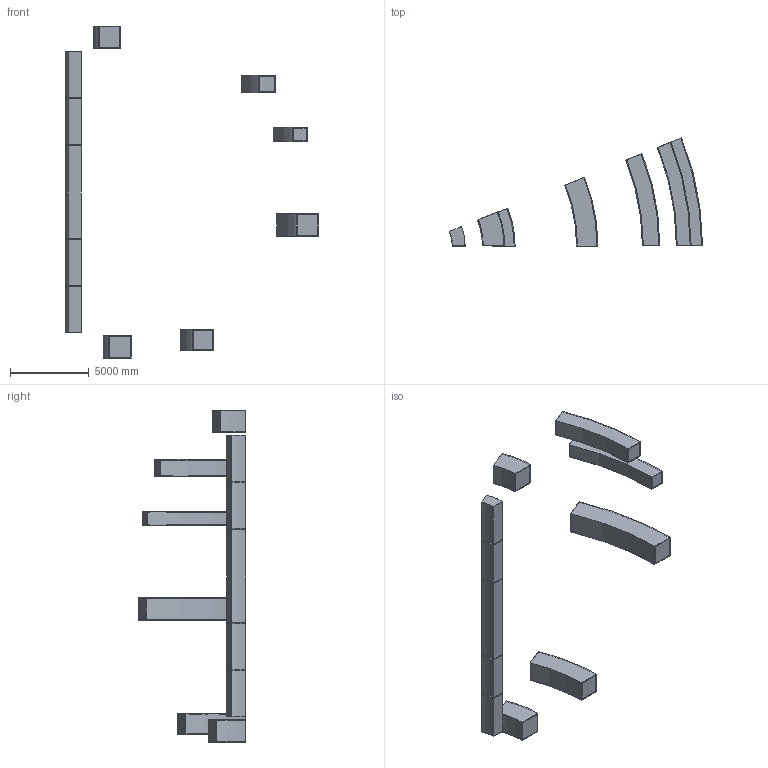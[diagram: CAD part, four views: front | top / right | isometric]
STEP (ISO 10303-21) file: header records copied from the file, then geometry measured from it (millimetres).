
FILE_DESCRIPTION(('FreeCAD Model'),'2;1');
FILE_NAME('Open CASCADE Shape Model','2026-10-11T08:18:57',('Bluemira'), ('Bluemira'),'Open CASCADE STEP processor 7.8','FreeCAD','Unknown');
FILE_SCHEMA(('AP242_MANAGED_MODEL_BASED_3D_ENGINEERING_MIM_LF. {1 0 10303 442 1 1 4 }'));
Length unit declared in the file: metre
Products named in the file (34): Unnamed; Winding_Pack; Ground_Insulation; Casing; Winding_Pack001; Ground_Insulation001; Casing001; Winding_Pack002; Ground_Insulation002; Casing002; Winding_Pack003; Ground_Insulation003; Casing003; Winding_Pack004; Ground_Insulation004; Casing004; Winding_Pack005; Ground_Insulation005; Casing005; Winding_Pack006; Ground_Insulation006; Casing006; Winding_Pack007; Ground_Insulation007; Casing007; Winding_Pack008; Ground_Insulation008; Casing008; Winding_Pack009; Ground_Insulation009; Casing009; Winding_Pack010; Ground_Insulation010; Casing010
Assembly tree (33 placements, depth 2):
  Unnamed
    Winding_Pack
    Ground_Insulation
    Casing
    Winding_Pack001
    Ground_Insulation001
    Casing001
    Winding_Pack002
    Ground_Insulation002
    Casing002
    Winding_Pack003
    Ground_Insulation003
    Casing003
    Winding_Pack004
    Ground_Insulation004
    Casing004
    Winding_Pack005
    Ground_Insulation005
    Casing005
    Winding_Pack006
    Ground_Insulation006
    Casing006
    Winding_Pack007
    Ground_Insulation007
    Casing007
    Winding_Pack008
    Ground_Insulation008
    Casing008
    Winding_Pack009
    Ground_Insulation009
    Casing009
    Winding_Pack010
    Ground_Insulation010
    Casing010
Bounding box: 16063.3 x 6852.33 x 21072.55 mm (x, y, z)
Volume: 58019953972.4 mm3; surface area: 908018156.1 mm2
Topology: 33 solids, 33 shells, 286 faces, 660 edges, 440 vertices
Faces by surface type: plane 176, cylinder 110
Entity records: 17352 total; most frequent: DIRECTION 2840, CARTESIAN_POINT 2740, LINE 1540, VECTOR 1540, ORIENTED_EDGE 1320, PCURVE 1320, DEFINITIONAL_REPRESENTATION 1320, EDGE_CURVE 660
